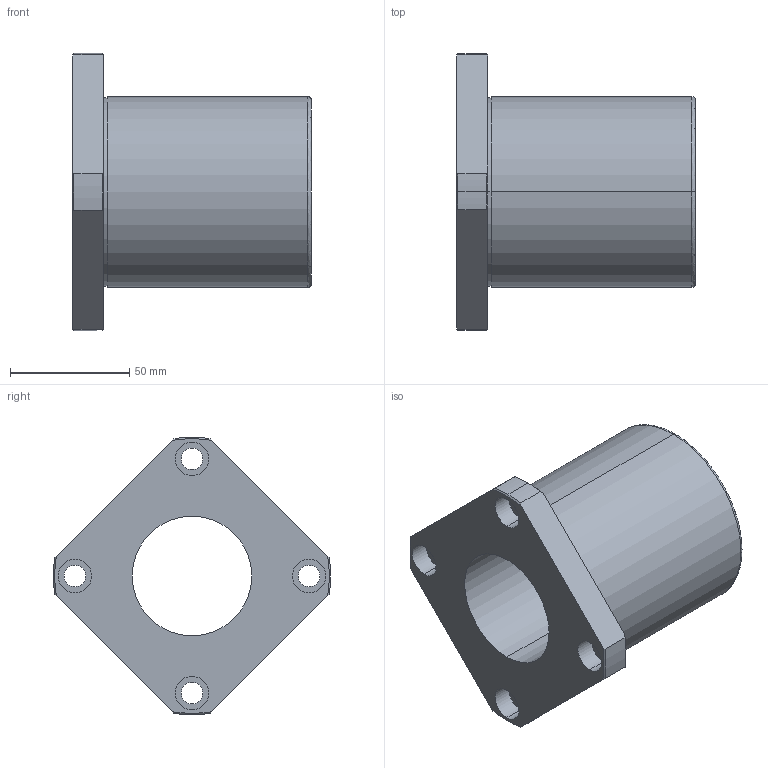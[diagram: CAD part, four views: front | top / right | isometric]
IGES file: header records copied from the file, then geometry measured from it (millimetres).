
Start section: 3D InterOp IGES (Version 21 0 1), Spatial Corp. Copyright (c) 1999-2007.
Global section: file name: NF-50VUU.igs; native system: Spatial Corp.; preprocessor: 3D InterOp GENERIC/IGES 3.0; author: Noname; organization: Noname; date: 20220308.153902; units: millimetre
Bounding box: 100 x 115.89 x 116 mm (x, y, z)
Surface area: 56126.3 mm2 (no closed solid volume)
Topology: 0 solids, 0 shells, 51 faces, 252 edges, 252 vertices
Faces by surface type: revolution 39, extrusion 12
